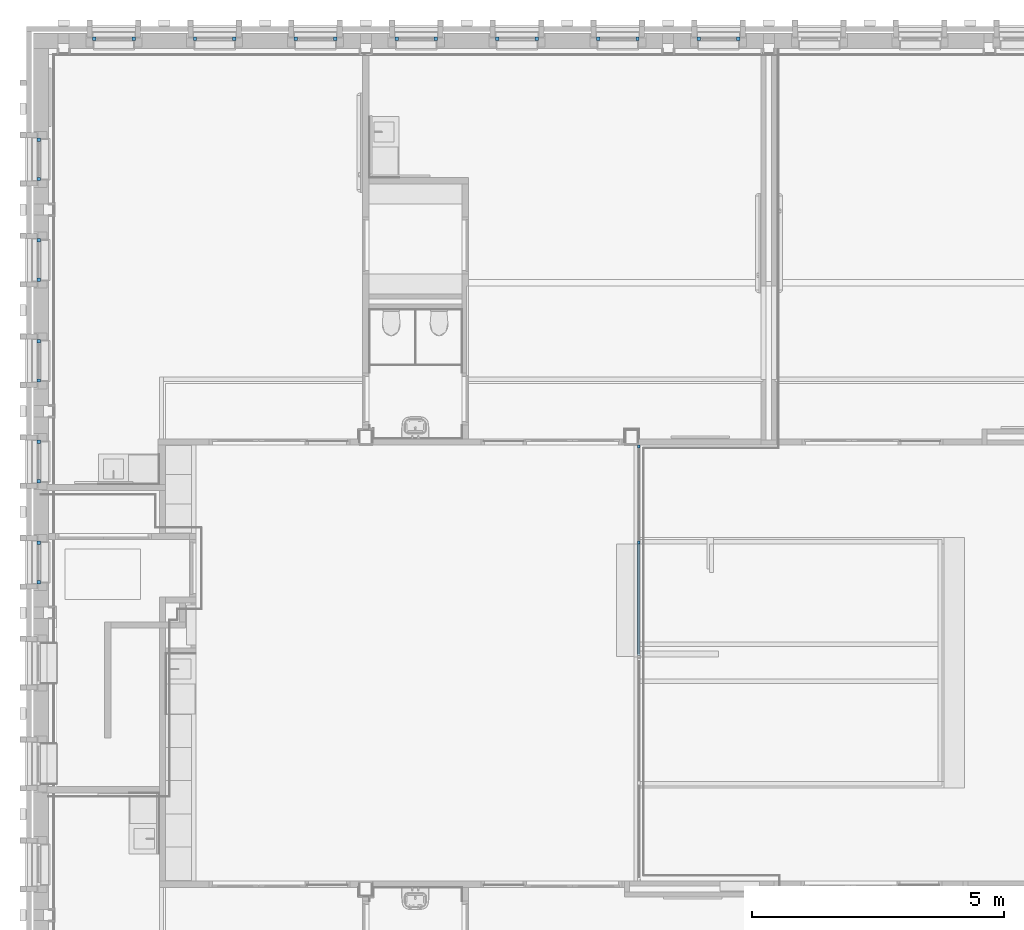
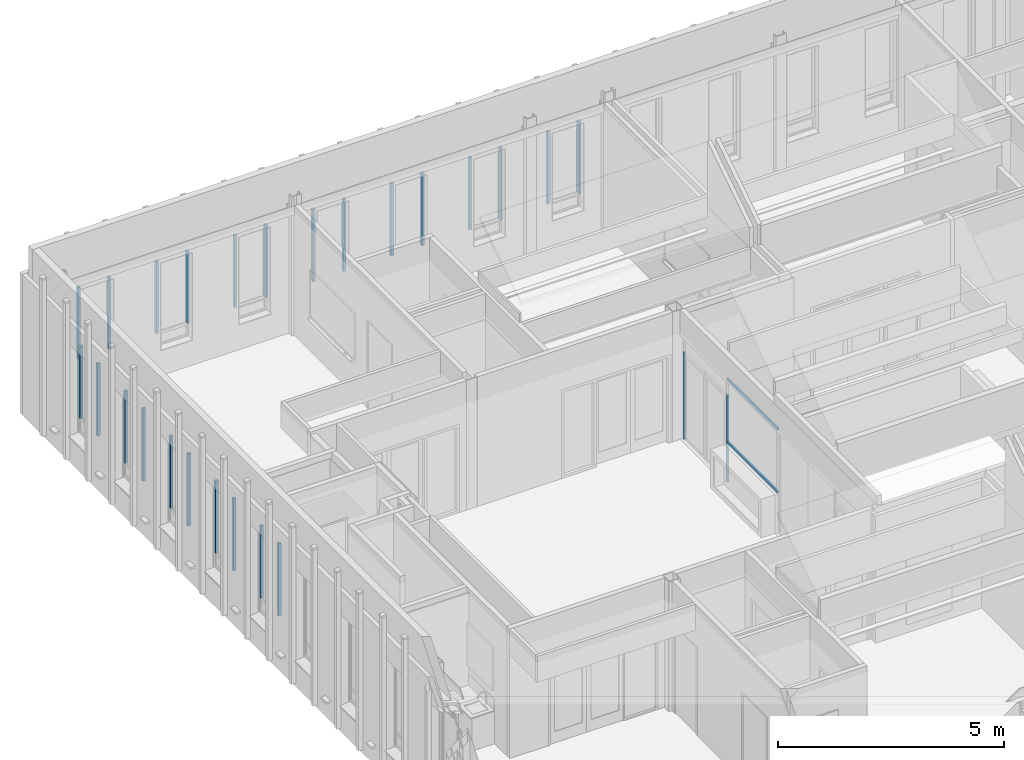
# One storey, part 5 of 118: 30 members, 13 elements without a shape of their own.
"""IFC2X3 building model written with IfcOpenShell, lengths in millimetres."""

from ifc_helpers import new_model, entity, si_unit, converted_unit, derived_unit, direction, frame, origin, origin_2d_with_axis, place, context, subcontext, project, spatial, rectangle, extrude, source, transform, mapped, material, material_list, type_object, type_shapes, element, aggregate, save


model = new_model("IFC2X3")

# Units and contexts
model_context = context("Model", 3, precision=0.01, world=origin(), true_north=direction((6.123031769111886e-17, 1.0)))
plan_context = context("Plan", 3, precision=0.01, world=origin(), true_north=direction((6.123031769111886e-17, 1.0)))
body_context = subcontext(model_context, "Body", "Model", "MODEL_VIEW")
ifc_project = project(units=[si_unit("LENGTHUNIT", "METRE", prefix="MILLI"), si_unit("AREAUNIT", "SQUARE_METRE"), si_unit("VOLUMEUNIT", "CUBIC_METRE"), converted_unit("PLANEANGLEUNIT", "DEGREE", entity("IfcRatioMeasure", 0.017453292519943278), si_unit("PLANEANGLEUNIT", "RADIAN"), dimensions=[0, 0, 0, 0, 0, 0, 0]), si_unit("MASSUNIT", "GRAM", prefix="KILO"), derived_unit("MASSDENSITYUNIT", [(si_unit("MASSUNIT", "GRAM", prefix="KILO"), 1), (si_unit("LENGTHUNIT", "METRE"), -3)]), derived_unit("IONCONCENTRATIONUNIT", [(si_unit("MASSUNIT", "GRAM", prefix="KILO"), 1), (si_unit("LENGTHUNIT", "METRE"), -3)]), derived_unit("MOMENTOFINERTIAUNIT", [(si_unit("LENGTHUNIT", "METRE"), 4)]), si_unit("TIMEUNIT", "SECOND"), si_unit("FREQUENCYUNIT", "HERTZ"), si_unit("THERMODYNAMICTEMPERATUREUNIT", "DEGREE_CELSIUS"), derived_unit("THERMALTRANSMITTANCEUNIT", [(si_unit("MASSUNIT", "GRAM", prefix="KILO"), 1), (si_unit("THERMODYNAMICTEMPERATUREUNIT", "KELVIN"), -1), (si_unit("TIMEUNIT", "SECOND"), -3)]), derived_unit("THERMALCONDUCTANCEUNIT", [(si_unit("MASSUNIT", "GRAM", prefix="KILO"), 1), (si_unit("THERMODYNAMICTEMPERATUREUNIT", "KELVIN"), -1), (si_unit("TIMEUNIT", "SECOND"), -3), (si_unit("LENGTHUNIT", "METRE"), 1)]), derived_unit("VOLUMETRICFLOWRATEUNIT", [(si_unit("LENGTHUNIT", "METRE"), 3), (si_unit("TIMEUNIT", "SECOND"), -1)]), derived_unit("MASSFLOWRATEUNIT", [(si_unit("MASSUNIT", "GRAM", prefix="KILO"), 1), (si_unit("TIMEUNIT", "SECOND"), -1)]), derived_unit("ROTATIONALFREQUENCYUNIT", [(si_unit("TIMEUNIT", "SECOND"), -1)]), si_unit("ELECTRICCURRENTUNIT", "AMPERE"), si_unit("ELECTRICVOLTAGEUNIT", "VOLT"), si_unit("POWERUNIT", "WATT"), si_unit("FORCEUNIT", "NEWTON", prefix="KILO"), si_unit("ILLUMINANCEUNIT", "LUX"), si_unit("LUMINOUSFLUXUNIT", "LUMEN"), si_unit("LUMINOUSINTENSITYUNIT", "CANDELA"), derived_unit("USERDEFINED", [(si_unit("MASSUNIT", "GRAM", prefix="KILO"), -1), (si_unit("LENGTHUNIT", "METRE"), -2), (si_unit("TIMEUNIT", "SECOND"), 3), (si_unit("LUMINOUSFLUXUNIT", "LUMEN"), 1)]), derived_unit("USERDEFINED", [(si_unit("MASSUNIT", "GRAM", prefix="KILO"), 1), (si_unit("TIMEUNIT", "SECOND"), -3), (si_unit("LENGTHUNIT", "METRE"), 3), (si_unit("ELECTRICCURRENTUNIT", "AMPERE"), -2)]), derived_unit("SOUNDPOWERUNIT", [(si_unit("MASSUNIT", "GRAM", prefix="KILO"), 1), (si_unit("TIMEUNIT", "SECOND"), -3), (si_unit("LENGTHUNIT", "METRE"), 2)]), derived_unit("SOUNDPRESSUREUNIT", [(si_unit("MASSUNIT", "GRAM", prefix="KILO"), 1), (si_unit("LENGTHUNIT", "METRE"), -1), (si_unit("TIMEUNIT", "SECOND"), -2)]), derived_unit("LINEARVELOCITYUNIT", [(si_unit("LENGTHUNIT", "METRE"), 1), (si_unit("TIMEUNIT", "SECOND"), -1)]), si_unit("PRESSUREUNIT", "PASCAL"), derived_unit("USERDEFINED", [(si_unit("MASSUNIT", "GRAM", prefix="KILO"), 1), (si_unit("LENGTHUNIT", "METRE"), -2), (si_unit("TIMEUNIT", "SECOND"), -2)]), derived_unit("LINEARFORCEUNIT", [(si_unit("MASSUNIT", "GRAM", prefix="KILO"), 1), (si_unit("TIMEUNIT", "SECOND"), -2)]), derived_unit("PLANARFORCEUNIT", [(si_unit("MASSUNIT", "GRAM", prefix="KILO"), 1), (si_unit("LENGTHUNIT", "METRE"), -1), (si_unit("TIMEUNIT", "SECOND"), -2)]), derived_unit("SPECIFICHEATCAPACITYUNIT", [(si_unit("THERMODYNAMICTEMPERATUREUNIT", "KELVIN"), -1), (si_unit("LENGTHUNIT", "METRE"), 2), (si_unit("TIMEUNIT", "SECOND"), -2)]), derived_unit("HEATINGVALUEUNIT", [(si_unit("LENGTHUNIT", "METRE"), 2), (si_unit("TIMEUNIT", "SECOND"), -2)]), derived_unit("VAPORPERMEABILITYUNIT", [(si_unit("LENGTHUNIT", "METRE"), -1), (si_unit("TIMEUNIT", "SECOND"), 1)]), derived_unit("DYNAMICVISCOSITYUNIT", [(si_unit("MASSUNIT", "GRAM", prefix="KILO"), 1), (si_unit("TIMEUNIT", "SECOND"), -1), (si_unit("LENGTHUNIT", "METRE"), -1)]), derived_unit("THERMALEXPANSIONCOEFFICIENTUNIT", [(si_unit("THERMODYNAMICTEMPERATUREUNIT", "KELVIN"), -1)]), derived_unit("MODULUSOFELASTICITYUNIT", [(si_unit("MASSUNIT", "GRAM", prefix="KILO"), 1), (si_unit("LENGTHUNIT", "METRE"), -1), (si_unit("TIMEUNIT", "SECOND"), -2)]), derived_unit("ISOTHERMALMOISTURECAPACITYUNIT", [(si_unit("LENGTHUNIT", "METRE"), 3), (si_unit("MASSUNIT", "GRAM", prefix="KILO"), -1)]), derived_unit("MOISTUREDIFFUSIVITYUNIT", [(si_unit("TIMEUNIT", "SECOND"), -1), (si_unit("LENGTHUNIT", "METRE"), 2)])], contexts=[model_context, plan_context])

# Site, building, storey
site_placement = place(None, origin())
site = spatial("IfcSite", under=ifc_project, at=site_placement, Name="Locatie", CompositionType="ELEMENT")
building_placement = place(site_placement, origin())
building = spatial("IfcBuilding", under=site, at=building_placement, Name="Bouwwerk", CompositionType="ELEMENT")
storey_placement = place(building_placement, frame((0.0, 0.0, 7800.0)))
storey = spatial("IfcBuildingStorey", under=building, at=storey_placement, Name="02 tweede verdieping", CompositionType="ELEMENT", Elevation=7800.000000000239)

# Curtain wall, member
curtain_wall_type_1 = type_object("IfcCurtainWallType", Name="Curtain Wall:NLRS_21_CW_Ontwerpkozijn_aluminium_RT72", PredefinedType="NOTDEFINED")
curtain_wall_1_placement = place(storey_placement, frame((0.0, 0.0, -7800.0)))
curtain_wall_1 = element("IfcCurtainWall", 1, at=curtain_wall_1_placement, inside=storey, type_object=curtain_wall_type_1, Name="Curtain Wall:NLRS_21_CW_Ontwerpkozijn_aluminium_RT72", ObjectType="Curtain Wall:NLRS_21_CW_Ontwerpkozijn_aluminium_RT72")
ifc_material_1 = material(Name="a_kozijn")
ifc_material_2 = material(Name="<Unnamed>")
ifc_material_list = material_list([ifc_material_2, ifc_material_1])
member_type_1 = type_object("IfcMemberType", Name="Rectangular Mullion:RT72_Hr_raam", PredefinedType="MULLION", material=ifc_material_list)
shared_shape_1 = source(origin(), body_context, "Body", "SweptSolid", [
    extrude(rectangle(XDim=71.99999999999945, YDim=68.00000000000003, at=origin_2d_with_axis()), frame((-34.0, -36.0, -1953.0), z_axis=(0.0, 0.0, 1.0), x_axis=(0.0, -1.0, 0.0)), (0.0, 0.0, 1.0), 1952.9999999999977),
])
type_shapes(member_type_1, [shared_shape_1])
member_1_placement = place(curtain_wall_1_placement, frame((9847.0, 23775.0, 10795.0), z_axis=(0.0, 0.0, 1.0), x_axis=(0.0, -1.0, 0.0)))
member_1 = element("IfcMember", 2, at=member_1_placement, type_object=member_type_1, material=ifc_material_1, Name="Rectangular Mullion:RT72_Hr_raam", ObjectType="Rectangular Mullion:RT72_Hr_raam", context=body_context, shape_type="MappedRepresentation", body=[
    mapped(shared_shape_1, transform((0.0, 0.0, 0.0), scale=1.0)),
])

curtain_wall_2_placement = place(storey_placement, frame((0.0, 0.0, -7800.0)))
curtain_wall_2 = element("IfcCurtainWall", 3, at=curtain_wall_2_placement, inside=storey, type_object=curtain_wall_type_1, Name="Curtain Wall:NLRS_21_CW_Ontwerpkozijn_aluminium_RT72", ObjectType="Curtain Wall:NLRS_21_CW_Ontwerpkozijn_aluminium_RT72")
member_2_placement = place(curtain_wall_2_placement, frame((9847.0, 25775.0, 10795.0), z_axis=(0.0, 0.0, 1.0), x_axis=(0.0, -1.0, 0.0)))
member_2 = element("IfcMember", 4, at=member_2_placement, type_object=member_type_1, material=ifc_material_1, Name="Rectangular Mullion:RT72_Hr_raam", ObjectType="Rectangular Mullion:RT72_Hr_raam", context=body_context, shape_type="MappedRepresentation", body=[
    mapped(shared_shape_1, transform((0.0, 0.0, 0.0), scale=1.0)),
])

curtain_wall_3_placement = place(storey_placement, frame((0.0, 0.0, -7800.0)))
curtain_wall_3 = element("IfcCurtainWall", 5, at=curtain_wall_3_placement, inside=storey, type_object=curtain_wall_type_1, Name="Curtain Wall:NLRS_21_CW_Ontwerpkozijn_aluminium_RT72", ObjectType="Curtain Wall:NLRS_21_CW_Ontwerpkozijn_aluminium_RT72")
member_3_placement = place(curtain_wall_3_placement, frame((9847.0, 29775.0, 10795.0), z_axis=(0.0, 0.0, 1.0), x_axis=(0.0, -1.0, 0.0)))
member_3 = element("IfcMember", 6, at=member_3_placement, type_object=member_type_1, material=ifc_material_1, Name="Rectangular Mullion:RT72_Hr_raam", ObjectType="Rectangular Mullion:RT72_Hr_raam", context=body_context, shape_type="MappedRepresentation", body=[
    mapped(shared_shape_1, transform((0.0, 0.0, 0.0), scale=1.0)),
])

curtain_wall_4_placement = place(storey_placement, frame((0.0, 0.0, -7800.0)))
curtain_wall_4 = element("IfcCurtainWall", 7, at=curtain_wall_4_placement, inside=storey, type_object=curtain_wall_type_1, Name="Curtain Wall:NLRS_21_CW_Ontwerpkozijn_aluminium_RT72", ObjectType="Curtain Wall:NLRS_21_CW_Ontwerpkozijn_aluminium_RT72")
member_4_placement = place(curtain_wall_4_placement, frame((18875.0, 34553.0, 10795.0), z_axis=(0.0, 0.0, 1.0), x_axis=(-1.0, 0.0, 0.0)))
member_4 = element("IfcMember", 8, at=member_4_placement, type_object=member_type_1, material=ifc_material_1, Name="Rectangular Mullion:RT72_Hr_raam", ObjectType="Rectangular Mullion:RT72_Hr_raam", context=body_context, shape_type="MappedRepresentation", body=[
    mapped(shared_shape_1, transform((0.0, 0.0, 0.0), scale=1.0)),
])

curtain_wall_5_placement = place(storey_placement, frame((0.0, 0.0, -7800.0)))
curtain_wall_5 = element("IfcCurtainWall", 9, at=curtain_wall_5_placement, inside=storey, type_object=curtain_wall_type_1, Name="Curtain Wall:NLRS_21_CW_Ontwerpkozijn_aluminium_RT72", ObjectType="Curtain Wall:NLRS_21_CW_Ontwerpkozijn_aluminium_RT72")
member_5_placement = place(curtain_wall_5_placement, frame((12875.0, 34553.0, 10795.0), z_axis=(0.0, 0.0, 1.0), x_axis=(-1.0, 0.0, 0.0)))
member_5 = element("IfcMember", 10, at=member_5_placement, type_object=member_type_1, material=ifc_material_1, Name="Rectangular Mullion:RT72_Hr_raam", ObjectType="Rectangular Mullion:RT72_Hr_raam", context=body_context, shape_type="MappedRepresentation", body=[
    mapped(shared_shape_1, transform((0.0, 0.0, 0.0), scale=1.0)),
])

curtain_wall_6_placement = place(storey_placement, frame((0.0, 0.0, -7800.0)))
curtain_wall_6 = element("IfcCurtainWall", 11, at=curtain_wall_6_placement, inside=storey, type_object=curtain_wall_type_1, Name="Curtain Wall:NLRS_21_CW_Ontwerpkozijn_aluminium_RT72", ObjectType="Curtain Wall:NLRS_21_CW_Ontwerpkozijn_aluminium_RT72")
member_6_placement = place(curtain_wall_6_placement, frame((22875.0, 34553.0, 10795.0), z_axis=(0.0, 0.0, 1.0), x_axis=(-1.0, 0.0, 0.0)))
member_6 = element("IfcMember", 12, at=member_6_placement, type_object=member_type_1, material=ifc_material_1, Name="Rectangular Mullion:RT72_Hr_raam", ObjectType="Rectangular Mullion:RT72_Hr_raam", context=body_context, shape_type="MappedRepresentation", body=[
    mapped(shared_shape_1, transform((0.0, 0.0, 0.0), scale=1.0)),
])

curtain_wall_7_placement = place(storey_placement, frame((0.0, 0.0, -7800.0)))
curtain_wall_7 = element("IfcCurtainWall", 13, at=curtain_wall_7_placement, inside=storey, type_object=curtain_wall_type_1, Name="Curtain Wall:NLRS_21_CW_Ontwerpkozijn_aluminium_RT72", ObjectType="Curtain Wall:NLRS_21_CW_Ontwerpkozijn_aluminium_RT72")
member_7_placement = place(curtain_wall_7_placement, frame((20875.0, 34553.0, 10795.0), z_axis=(0.0, 0.0, 1.0), x_axis=(-1.0, 0.0, 0.0)))
member_7 = element("IfcMember", 14, at=member_7_placement, type_object=member_type_1, material=ifc_material_1, Name="Rectangular Mullion:RT72_Hr_raam", ObjectType="Rectangular Mullion:RT72_Hr_raam", context=body_context, shape_type="MappedRepresentation", body=[
    mapped(shared_shape_1, transform((0.0, 0.0, 0.0), scale=1.0)),
])

curtain_wall_8_placement = place(storey_placement, frame((0.0, 0.0, -7800.0)))
curtain_wall_8 = element("IfcCurtainWall", 15, at=curtain_wall_8_placement, inside=storey, type_object=curtain_wall_type_1, Name="Curtain Wall:NLRS_21_CW_Ontwerpkozijn_aluminium_RT72", ObjectType="Curtain Wall:NLRS_21_CW_Ontwerpkozijn_aluminium_RT72")
member_8_placement = place(curtain_wall_8_placement, frame((16875.0, 34553.0, 10795.0), z_axis=(0.0, 0.0, 1.0), x_axis=(-1.0, 0.0, 0.0)))
member_8 = element("IfcMember", 16, at=member_8_placement, type_object=member_type_1, material=ifc_material_1, Name="Rectangular Mullion:RT72_Hr_raam", ObjectType="Rectangular Mullion:RT72_Hr_raam", context=body_context, shape_type="MappedRepresentation", body=[
    mapped(shared_shape_1, transform((0.0, 0.0, 0.0), scale=1.0)),
])

curtain_wall_9_placement = place(storey_placement, frame((0.0, 0.0, -7800.0)))
curtain_wall_9 = element("IfcCurtainWall", 17, at=curtain_wall_9_placement, inside=storey, type_object=curtain_wall_type_1, Name="Curtain Wall:NLRS_21_CW_Ontwerpkozijn_aluminium_RT72", ObjectType="Curtain Wall:NLRS_21_CW_Ontwerpkozijn_aluminium_RT72")
member_9_placement = place(curtain_wall_9_placement, frame((14875.0, 34553.0, 10795.0), z_axis=(0.0, 0.0, 1.0), x_axis=(-1.0, 0.0, 0.0)))
member_9 = element("IfcMember", 18, at=member_9_placement, type_object=member_type_1, material=ifc_material_1, Name="Rectangular Mullion:RT72_Hr_raam", ObjectType="Rectangular Mullion:RT72_Hr_raam", context=body_context, shape_type="MappedRepresentation", body=[
    mapped(shared_shape_1, transform((0.0, 0.0, 0.0), scale=1.0)),
])

curtain_wall_10_placement = place(storey_placement, frame((0.0, 0.0, -7800.0)))
curtain_wall_10 = element("IfcCurtainWall", 19, at=curtain_wall_10_placement, inside=storey, type_object=curtain_wall_type_1, Name="Curtain Wall:NLRS_21_CW_Ontwerpkozijn_aluminium_RT72", ObjectType="Curtain Wall:NLRS_21_CW_Ontwerpkozijn_aluminium_RT72")
member_10_placement = place(curtain_wall_10_placement, frame((10875.0, 34553.0, 10795.0), z_axis=(0.0, 0.0, 1.0), x_axis=(-1.0, 0.0, 0.0)))
member_10 = element("IfcMember", 20, at=member_10_placement, type_object=member_type_1, material=ifc_material_1, Name="Rectangular Mullion:RT72_Hr_raam", ObjectType="Rectangular Mullion:RT72_Hr_raam", context=body_context, shape_type="MappedRepresentation", body=[
    mapped(shared_shape_1, transform((0.0, 0.0, 0.0), scale=1.0)),
])

curtain_wall_11_placement = place(storey_placement, frame((0.0, 0.0, -7800.0)))
curtain_wall_11 = element("IfcCurtainWall", 21, at=curtain_wall_11_placement, inside=storey, type_object=curtain_wall_type_1, Name="Curtain Wall:NLRS_21_CW_Ontwerpkozijn_aluminium_RT72", ObjectType="Curtain Wall:NLRS_21_CW_Ontwerpkozijn_aluminium_RT72")
member_11_placement = place(curtain_wall_11_placement, frame((9847.0, 27775.0, 10795.0), z_axis=(0.0, 0.0, 1.0), x_axis=(0.0, -1.0, 0.0)))
member_11 = element("IfcMember", 22, at=member_11_placement, type_object=member_type_1, material=ifc_material_1, Name="Rectangular Mullion:RT72_Hr_raam", ObjectType="Rectangular Mullion:RT72_Hr_raam", context=body_context, shape_type="MappedRepresentation", body=[
    mapped(shared_shape_1, transform((0.0, 0.0, 0.0), scale=1.0)),
])

curtain_wall_12_placement = place(storey_placement, frame((0.0, 0.0, -7800.0)))
curtain_wall_12 = element("IfcCurtainWall", 23, at=curtain_wall_12_placement, inside=storey, type_object=curtain_wall_type_1, Name="Curtain Wall:NLRS_21_CW_Ontwerpkozijn_aluminium_RT72", ObjectType="Curtain Wall:NLRS_21_CW_Ontwerpkozijn_aluminium_RT72")
member_12_placement = place(curtain_wall_12_placement, frame((9847.0, 31775.0, 10795.0), z_axis=(0.0, 0.0, 1.0), x_axis=(0.0, -1.0, 0.0)))
member_12 = element("IfcMember", 24, at=member_12_placement, type_object=member_type_1, material=ifc_material_1, Name="Rectangular Mullion:RT72_Hr_raam", ObjectType="Rectangular Mullion:RT72_Hr_raam", context=body_context, shape_type="MappedRepresentation", body=[
    mapped(shared_shape_1, transform((0.0, 0.0, 0.0), scale=1.0)),
])

# Member
member_type_2 = type_object("IfcMemberType", Name="Rectangular Mullion:RT72_Hl_raam", PredefinedType="MULLION", material=ifc_material_list)
shared_shape_2 = source(origin(), body_context, "Body", "SweptSolid", [
    extrude(rectangle(XDim=71.99999999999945, YDim=68.00000000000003, at=origin_2d_with_axis()), frame((-34.0, -36.0, -1953.0), z_axis=(0.0, 0.0, 1.0), x_axis=(0.0, -1.0, 0.0)), (0.0, 0.0, 1.0), 1952.9999999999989),
])
type_shapes(member_type_2, [shared_shape_2])
member_13_placement = place(curtain_wall_1_placement, frame((9847.0, 24625.0, 8842.0), z_axis=(0.0, 0.0, -1.0), x_axis=(0.0, 1.0, 0.0)))
member_13 = element("IfcMember", 25, at=member_13_placement, type_object=member_type_2, material=ifc_material_1, Name="Rectangular Mullion:RT72_Hl_raam", ObjectType="Rectangular Mullion:RT72_Hl_raam", context=body_context, shape_type="MappedRepresentation", body=[
    mapped(shared_shape_2, transform((0.0, 0.0, 0.0), scale=1.0)),
])

aggregate(curtain_wall_1, [member_1, member_13])

member_14_placement = place(curtain_wall_2_placement, frame((9847.0, 26625.0, 8842.0), z_axis=(0.0, 0.0, -1.0), x_axis=(0.0, 1.0, 0.0)))
member_14 = element("IfcMember", 26, at=member_14_placement, type_object=member_type_2, material=ifc_material_1, Name="Rectangular Mullion:RT72_Hl_raam", ObjectType="Rectangular Mullion:RT72_Hl_raam", context=body_context, shape_type="MappedRepresentation", body=[
    mapped(shared_shape_2, transform((0.0, 0.0, 0.0), scale=1.0)),
])

aggregate(curtain_wall_2, [member_2, member_14])

member_15_placement = place(curtain_wall_3_placement, frame((9847.0, 30625.0, 8842.0), z_axis=(0.0, 0.0, -1.0), x_axis=(0.0, 1.0, 0.0)))
member_15 = element("IfcMember", 27, at=member_15_placement, type_object=member_type_2, material=ifc_material_1, Name="Rectangular Mullion:RT72_Hl_raam", ObjectType="Rectangular Mullion:RT72_Hl_raam", context=body_context, shape_type="MappedRepresentation", body=[
    mapped(shared_shape_2, transform((0.0, 0.0, 0.0), scale=1.0)),
])

aggregate(curtain_wall_3, [member_3, member_15])

member_16_placement = place(curtain_wall_4_placement, frame((19725.0, 34553.0, 8842.0), z_axis=(0.0, 0.0, -1.0), x_axis=(1.0, 0.0, 0.0)))
member_16 = element("IfcMember", 28, at=member_16_placement, type_object=member_type_2, material=ifc_material_1, Name="Rectangular Mullion:RT72_Hl_raam", ObjectType="Rectangular Mullion:RT72_Hl_raam", context=body_context, shape_type="MappedRepresentation", body=[
    mapped(shared_shape_2, transform((0.0, 0.0, 0.0), scale=1.0)),
])

aggregate(curtain_wall_4, [member_4, member_16])

member_17_placement = place(curtain_wall_5_placement, frame((13725.0, 34553.0, 8842.0), z_axis=(0.0, 0.0, -1.0), x_axis=(1.0, 0.0, 0.0)))
member_17 = element("IfcMember", 29, at=member_17_placement, type_object=member_type_2, material=ifc_material_1, Name="Rectangular Mullion:RT72_Hl_raam", ObjectType="Rectangular Mullion:RT72_Hl_raam", context=body_context, shape_type="MappedRepresentation", body=[
    mapped(shared_shape_2, transform((0.0, 0.0, 0.0), scale=1.0)),
])

aggregate(curtain_wall_5, [member_5, member_17])

member_18_placement = place(curtain_wall_6_placement, frame((23725.0, 34553.0, 8842.0), z_axis=(0.0, 0.0, -1.0), x_axis=(1.0, 0.0, 0.0)))
member_18 = element("IfcMember", 30, at=member_18_placement, type_object=member_type_2, material=ifc_material_1, Name="Rectangular Mullion:RT72_Hl_raam", ObjectType="Rectangular Mullion:RT72_Hl_raam", context=body_context, shape_type="MappedRepresentation", body=[
    mapped(shared_shape_2, transform((0.0, 0.0, 0.0), scale=1.0)),
])

aggregate(curtain_wall_6, [member_6, member_18])

member_19_placement = place(curtain_wall_7_placement, frame((21725.0, 34553.0, 8842.0), z_axis=(0.0, 0.0, -1.0), x_axis=(1.0, 0.0, 0.0)))
member_19 = element("IfcMember", 31, at=member_19_placement, type_object=member_type_2, material=ifc_material_1, Name="Rectangular Mullion:RT72_Hl_raam", ObjectType="Rectangular Mullion:RT72_Hl_raam", context=body_context, shape_type="MappedRepresentation", body=[
    mapped(shared_shape_2, transform((0.0, 0.0, 0.0), scale=1.0)),
])

aggregate(curtain_wall_7, [member_7, member_19])

member_20_placement = place(curtain_wall_8_placement, frame((17725.0, 34553.0, 8842.0), z_axis=(0.0, 0.0, -1.0), x_axis=(1.0, 0.0, 0.0)))
member_20 = element("IfcMember", 32, at=member_20_placement, type_object=member_type_2, material=ifc_material_1, Name="Rectangular Mullion:RT72_Hl_raam", ObjectType="Rectangular Mullion:RT72_Hl_raam", context=body_context, shape_type="MappedRepresentation", body=[
    mapped(shared_shape_2, transform((0.0, 0.0, 0.0), scale=1.0)),
])

aggregate(curtain_wall_8, [member_8, member_20])

member_21_placement = place(curtain_wall_9_placement, frame((15725.0, 34553.0, 8842.0), z_axis=(0.0, 0.0, -1.0), x_axis=(1.0, 0.0, 0.0)))
member_21 = element("IfcMember", 33, at=member_21_placement, type_object=member_type_2, material=ifc_material_1, Name="Rectangular Mullion:RT72_Hl_raam", ObjectType="Rectangular Mullion:RT72_Hl_raam", context=body_context, shape_type="MappedRepresentation", body=[
    mapped(shared_shape_2, transform((0.0, 0.0, 0.0), scale=1.0)),
])

aggregate(curtain_wall_9, [member_9, member_21])

member_22_placement = place(curtain_wall_10_placement, frame((11725.0, 34553.0, 8842.0), z_axis=(0.0, 0.0, -1.0), x_axis=(1.0, 0.0, 0.0)))
member_22 = element("IfcMember", 34, at=member_22_placement, type_object=member_type_2, material=ifc_material_1, Name="Rectangular Mullion:RT72_Hl_raam", ObjectType="Rectangular Mullion:RT72_Hl_raam", context=body_context, shape_type="MappedRepresentation", body=[
    mapped(shared_shape_2, transform((0.0, 0.0, 0.0), scale=1.0)),
])

aggregate(curtain_wall_10, [member_10, member_22])

member_23_placement = place(curtain_wall_11_placement, frame((9847.0, 28625.0, 8842.0), z_axis=(0.0, 0.0, -1.0), x_axis=(0.0, 1.0, 0.0)))
member_23 = element("IfcMember", 35, at=member_23_placement, type_object=member_type_2, material=ifc_material_1, Name="Rectangular Mullion:RT72_Hl_raam", ObjectType="Rectangular Mullion:RT72_Hl_raam", context=body_context, shape_type="MappedRepresentation", body=[
    mapped(shared_shape_2, transform((0.0, 0.0, 0.0), scale=1.0)),
])

aggregate(curtain_wall_11, [member_11, member_23])

member_24_placement = place(curtain_wall_12_placement, frame((9847.0, 32625.0, 8842.0), z_axis=(0.0, 0.0, -1.0), x_axis=(0.0, 1.0, 0.0)))
member_24 = element("IfcMember", 36, at=member_24_placement, type_object=member_type_2, material=ifc_material_1, Name="Rectangular Mullion:RT72_Hl_raam", ObjectType="Rectangular Mullion:RT72_Hl_raam", context=body_context, shape_type="MappedRepresentation", body=[
    mapped(shared_shape_2, transform((0.0, 0.0, 0.0), scale=1.0)),
])

aggregate(curtain_wall_12, [member_12, member_24])

# Curtain wall, members
curtain_wall_type_2 = type_object("IfcCurtainWallType", Name="Curtain Wall:32_BDG_Jansen Economy 50", PredefinedType="NOTDEFINED")
curtain_wall_13_placement = place(storey_placement, frame((0.0, 0.0, -7800.0)))
curtain_wall_13 = element("IfcCurtainWall", 37, at=curtain_wall_13_placement, inside=storey, type_object=curtain_wall_type_2, Name="Curtain Wall:32_BDG_Jansen Economy 50", ObjectType="Curtain Wall:32_BDG_Jansen Economy 50")
ifc_material_3 = material(Name="h2_staal_gen")
member_type_3 = type_object("IfcMemberType", Name="Rectangular Mullion:CWM_Jansen Economy 50 bxh=50x60mm", PredefinedType="MULLION", material=ifc_material_3)
shared_shape_3 = source(origin(), body_context, "Body", "SweptSolid", [
    extrude(rectangle(XDim=50.0, YDim=60.0, at=origin_2d_with_axis()), frame((-30.0, 0.0, -2245.350000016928), z_axis=(0.0, 0.0, 1.0), x_axis=(0.0, -1.0, 0.0)), (0.0, 0.0, 1.0), 2245.350000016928),
])
type_shapes(member_type_3, [shared_shape_3])
member_25_placement = place(curtain_wall_13_placement, frame((21717.0, 22349.836885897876, 10600.0), z_axis=(0.0, -1.0, 0.0), x_axis=(0.0, 0.0, 1.0)))
member_25 = element("IfcMember", 38, at=member_25_placement, type_object=member_type_3, material=ifc_material_3, Name="Rectangular Mullion:CWM_Jansen Economy 50 bxh=50x60mm", ObjectType="Rectangular Mullion:CWM_Jansen Economy 50 bxh=50x60mm", context=body_context, shape_type="MappedRepresentation", body=[
    mapped(shared_shape_3, transform((0.0, 0.0, 0.0), scale=1.0)),
])
member_type_4 = type_object("IfcMemberType", Name="Rectangular Mullion:CWM_Jansen Economy 50 bxh=50x60mm", PredefinedType="MULLION", material=ifc_material_3)
shared_shape_4 = source(origin(), body_context, "Body", "SweptSolid", [
    extrude(rectangle(XDim=50.0, YDim=60.0, at=origin_2d_with_axis()), frame((0.0, 0.0, -1080.0), z_axis=(0.0, 0.0, 1.0), x_axis=(0.0, -1.0, 0.0)), (0.0, 0.0, 1.0), 1079.9999999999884),
])
type_shapes(member_type_4, [shared_shape_4])
member_26_placement = place(curtain_wall_13_placement, frame((21717.0, 24595.03688591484, 7800.0), z_axis=(0.0, 0.0, -1.0), x_axis=(0.0, -1.0, 0.0)))
member_26 = element("IfcMember", 39, at=member_26_placement, type_object=member_type_4, material=ifc_material_3, Name="Rectangular Mullion:CWM_Jansen Economy 50 bxh=50x60mm", ObjectType="Rectangular Mullion:CWM_Jansen Economy 50 bxh=50x60mm", context=body_context, shape_type="MappedRepresentation", body=[
    mapped(shared_shape_4, transform((0.0, 0.0, 0.0), scale=1.0)),
])
member_type_5 = type_object("IfcMemberType", Name="Rectangular Mullion:CWM_Jansen Economy 50 bxh=50x60mm", PredefinedType="MULLION", material=ifc_material_3)
shared_shape_5 = source(origin(), body_context, "Body", "SweptSolid", [
    extrude(rectangle(XDim=50.0, YDim=60.0, at=origin_2d_with_axis()), frame((-30.0, 0.0, -1272.5000000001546), z_axis=(0.0, 0.0, 1.0), x_axis=(0.0, -1.0, 0.0)), (0.0, 0.0, 1.0), 1272.5000000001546),
])
type_shapes(member_type_5, [shared_shape_5])
member_27_placement = place(curtain_wall_13_placement, frame((21717.0, 26525.0, 10152.500000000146), z_axis=(0.0, 0.0, 1.0), x_axis=(0.0, 1.0, 0.0)))
member_27 = element("IfcMember", 40, at=member_27_placement, type_object=member_type_5, material=ifc_material_3, Name="Rectangular Mullion:CWM_Jansen Economy 50 bxh=50x60mm", ObjectType="Rectangular Mullion:CWM_Jansen Economy 50 bxh=50x60mm", context=body_context, shape_type="MappedRepresentation", body=[
    mapped(shared_shape_5, transform((0.0, 0.0, 0.0), scale=1.0)),
])
member_type_6 = type_object("IfcMemberType", Name="Rectangular Mullion:CWM_Jansen Economy 50 bxh=50x60mm", PredefinedType="MULLION", material=ifc_material_3)
shared_shape_6 = source(origin(), body_context, "Body", "SweptSolid", [
    extrude(rectangle(XDim=50.0, YDim=60.0, at=origin_2d_with_axis()), frame((-30.0, 0.0, -1080.0), z_axis=(0.0, 0.0, 1.0), x_axis=(0.0, -1.0, 0.0)), (0.0, 0.0, 1.0), 1079.9999999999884),
])
type_shapes(member_type_6, [shared_shape_6])
member_28_placement = place(curtain_wall_13_placement, frame((21717.0, 26525.0, 8880.0), z_axis=(0.0, 0.0, 1.0), x_axis=(0.0, 1.0, 0.0)))
member_28 = element("IfcMember", 41, at=member_28_placement, type_object=member_type_6, material=ifc_material_3, Name="Rectangular Mullion:CWM_Jansen Economy 50 bxh=50x60mm", ObjectType="Rectangular Mullion:CWM_Jansen Economy 50 bxh=50x60mm", context=body_context, shape_type="MappedRepresentation", body=[
    mapped(shared_shape_6, transform((0.0, 0.0, 0.0), scale=1.0)),
])
member_type_7 = type_object("IfcMemberType", Name="Rectangular Mullion:CWM_Jansen Economy 50 bxh=50x60mm", PredefinedType="MULLION", material=ifc_material_3)
shared_shape_7 = source(origin(), body_context, "Body", "SweptSolid", [
    extrude(rectangle(XDim=50.0, YDim=60.0, at=origin_2d_with_axis()), frame((0.0, 0.0, -2215.2000000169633), z_axis=(0.0, 0.0, 1.0), x_axis=(0.0, -1.0, 0.0)), (0.0, 0.0, 1.0), 2215.2000000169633),
])
type_shapes(member_type_7, [shared_shape_7])
member_29_placement = place(curtain_wall_13_placement, frame((21717.0, 22349.836885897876, 8880.0), z_axis=(0.0, -1.0, 0.0), x_axis=(0.0, 0.0, 1.0)))
member_29 = element("IfcMember", 42, at=member_29_placement, type_object=member_type_7, material=ifc_material_3, Name="Rectangular Mullion:CWM_Jansen Economy 50 bxh=50x60mm", ObjectType="Rectangular Mullion:CWM_Jansen Economy 50 bxh=50x60mm", context=body_context, shape_type="MappedRepresentation", body=[
    mapped(shared_shape_7, transform((0.0, 0.0, 0.0), scale=1.0)),
])
member_type_8 = type_object("IfcMemberType", Name="Rectangular Mullion:CWM_Jansen Economy 50 bxh=50x60mm", PredefinedType="MULLION", material=ifc_material_3)
shared_shape_8 = source(origin(), body_context, "Body", "SweptSolid", [
    extrude(rectangle(XDim=50.0, YDim=60.0, at=origin_2d_with_axis()), frame((0.0, 0.0, -1272.5000000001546), z_axis=(0.0, 0.0, 1.0), x_axis=(0.0, -1.0, 0.0)), (0.0, 0.0, 1.0), 1272.5000000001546),
])
type_shapes(member_type_8, [shared_shape_8])
member_30_placement = place(curtain_wall_13_placement, frame((21717.0, 24595.03688591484, 8880.0), z_axis=(0.0, 0.0, -1.0), x_axis=(0.0, -1.0, 0.0)))
member_30 = element("IfcMember", 43, at=member_30_placement, type_object=member_type_8, material=ifc_material_3, Name="Rectangular Mullion:CWM_Jansen Economy 50 bxh=50x60mm", ObjectType="Rectangular Mullion:CWM_Jansen Economy 50 bxh=50x60mm", context=body_context, shape_type="MappedRepresentation", body=[
    mapped(shared_shape_8, transform((0.0, 0.0, 0.0), scale=1.0)),
])
aggregate(curtain_wall_13, [member_26, member_27, member_28, member_29, member_30, member_25])

save(model, "model.ifc")
